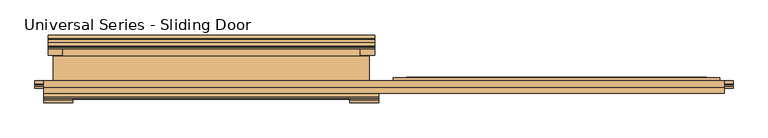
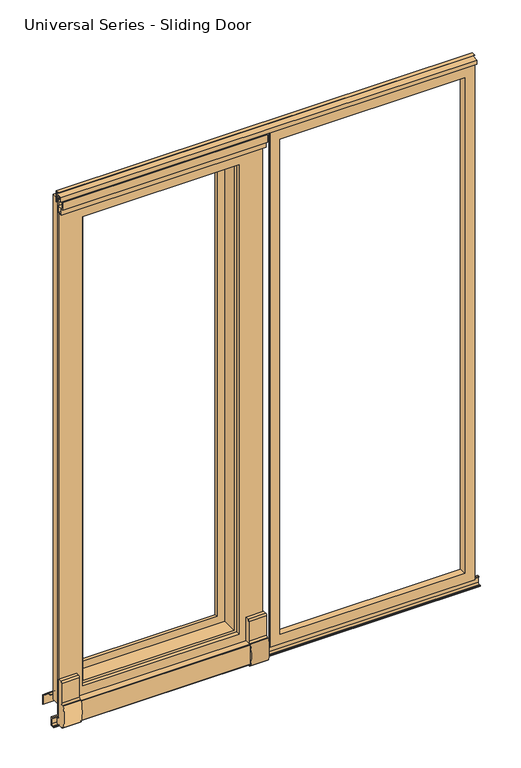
"""IFC4 building model written with IfcOpenShell, lengths in millimetres: door geometry, Universal Series - Sliding Door : Universal Sliding Door - Rainware White."""

from ifc_helpers import new_model, si_unit, point, frame, frame_2d, origin, place, context, project, spatial, polyline, circle_curve, ellipse_curve, trimmed, segment, composite_curve, outline, extrude, faceted_brep, source, transform, mapped, element, save
from ifc_brep_helpers import plane_surface, cylinder_surface, revolved_surface, extruded_surface, spline_curve, advanced_brep


def universal_series_sliding_door_3838186a(model_context):
    return source(origin(), model_context, "Body", "SolidModel", [
        faceted_brep([(742.95, -54.76875, 1983.85408), (742.95, -56.35625, 1983.85408), (742.95, -56.35625, 42.8625), (742.95, -54.76875, 42.8625), (11.1125, -56.35625, 1983.85408), (11.1125, -56.35625, 42.8625), (706.4375, -56.35625, 1947.34158), (706.4375, -56.35625, 79.375), (47.625, -56.35625, 79.375), (47.625, -56.35625, 1947.34158), (11.1125, -54.76875, 42.8625), (11.1125, -54.76875, 1983.85408), (20.6375, -54.76875, 1974.32908), (20.6375, -54.76875, 52.3875), (733.425, -54.76875, 52.3875), (733.425, -54.76875, 1974.32908), (733.425, -35.71875, 1974.32908), (733.425, -35.71875, 52.3875), (20.6375, -35.71875, 52.3875), (704.85, -34.13125, 1945.75408), (704.85, -34.13125, 80.9625), (49.2125, -34.13125, 80.9625), (20.6375, -35.71875, 1974.32908), (49.2125, -34.13125, 1945.75408)], [[[0, 1, 2, 3]], [[4, 5, 2, 1], [6, 7, 8, 9]], [[3, 2, 5, 10]], [[0, 3, 10, 11], [12, 13, 14, 15]], [[16, 15, 14, 17]], [[17, 14, 13, 18]], [[19, 16, 17, 20]], [[20, 17, 18, 21]], [[6, 19, 20, 7]], [[7, 20, 21, 8]], [[10, 5, 4, 11]], [[18, 13, 12, 22]], [[21, 18, 22, 23]], [[8, 21, 23, 9]], [[11, 4, 1, 0]], [[22, 12, 15, 16]], [[23, 22, 16, 19]], [[9, 23, 19, 6]]]),
        faceted_brep([(-646.1125, 15.08125, 139.7), (-646.1125, -40.48125, 139.7), (-107.95, -40.48125, 139.7), (-107.95, 15.08125, 139.7), (-107.95, -40.48125, 1890.7125), (-107.95, 15.08125, 1890.7125), (-98.425, -40.48125, 1900.2375), (-655.6375, -40.48125, 1900.2375), (-655.6375, -40.48125, 130.175), (-98.425, -40.48125, 130.175), (-646.1125, -40.48125, 1890.7125), (-646.1125, 15.08125, 1890.7125), (-136.525, 15.08125, 168.275), (-617.5375, 15.08125, 168.275), (-617.5375, 15.08125, 1862.1375), (-136.525, 15.08125, 1862.1375), (-655.6375, -54.76875, 130.175), (-98.425, -54.76875, 130.175), (-98.425, -54.76875, 1900.2375), (-14.2875, -54.76875, 1984.375), (-739.775, -54.76875, 1984.375), (-739.775, -54.76875, 46.0375), (-14.2875, -54.76875, 46.0375), (-655.6375, -54.76875, 1900.2375), (-739.775, -43.65625, 46.0375), (-14.2875, -43.65625, 46.0375), (-14.2875, -43.65625, 1984.375), (-739.775, -43.65625, 1984.375), (-31.75, -43.65625, 1966.9125), (-722.3125, -43.65625, 1966.9125), (-722.3125, -43.65625, 63.5), (-31.75, -43.65625, 63.5), (-722.3125, 11.90625, 63.5), (-31.75, 11.90625, 63.5), (-31.75, 11.90625, 1966.9125), (-722.3125, 11.90625, 1966.9125), (-52.3875, 11.90625, 1946.275), (-701.675, 11.90625, 1946.275), (-701.675, 11.90625, 84.1375), (-52.3875, 11.90625, 84.1375), (-701.675, 26.19375, 84.1375), (-52.3875, 26.19375, 84.1375), (-52.3875, 26.19375, 1946.275), (-701.675, 26.19375, 1946.275), (-136.525, 26.19375, 1862.1375), (-617.5375, 26.19375, 1862.1375), (-617.5375, 26.19375, 168.275), (-136.525, 26.19375, 168.275)], [[[0, 1, 2, 3]], [[3, 2, 4, 5]], [[6, 7, 8, 9], [2, 1, 10, 4]], [[5, 11, 0, 3], [12, 13, 14, 15]], [[8, 16, 17, 9]], [[9, 17, 18, 6]], [[19, 20, 21, 22], [17, 16, 23, 18]], [[21, 24, 25, 22]], [[22, 25, 26, 19]], [[25, 24, 27, 26], [28, 29, 30, 31]], [[30, 32, 33, 31]], [[31, 33, 34, 28]], [[33, 32, 35, 34], [36, 37, 38, 39]], [[38, 40, 41, 39]], [[39, 41, 42, 36]], [[41, 40, 43, 42], [44, 45, 46, 47]], [[46, 13, 12, 47]], [[47, 12, 15, 44]], [[45, 14, 13, 46]], [[37, 43, 40, 38]], [[29, 35, 32, 30]], [[20, 27, 24, 21]], [[7, 23, 16, 8]], [[11, 10, 1, 0]], [[44, 15, 14, 45]], [[36, 42, 43, 37]], [[28, 34, 35, 29]], [[19, 26, 27, 20]], [[6, 18, 23, 7]], [[5, 4, 10, 11]]]),
        extrude(outline(composite_curve([segment(polyline([(-80.16875, 98.7718194), (-56.35625, 98.7718194), (-56.35625, 22.5718194), (-80.16875, 22.5718194)]), True, "CONTINUOUS"), segment(trimmed(circle_curve(frame_2d((-80.16875, 24.1593194)), 1.5875), [point((-80.16875, 22.5718194))], [point((-81.75625, 24.1593194))], False, "CARTESIAN"), True, "CONTINUOUS"), segment(polyline([(-81.75625, 24.1593194), (-81.75625, 97.1843194)]), True, "CONTINUOUS"), segment(trimmed(circle_curve(frame_2d((-80.16875, 97.1843194)), 1.5875), [point((-81.75625, 97.1843194))], [point((-80.16875, 98.7718194))], False, "CARTESIAN"), True, "CONTINUOUS")], self_intersect=False)), frame((-679.45, 0.0, 0.0), z_axis=(1.0, 0.0, 0.0), x_axis=(0.0, 1.0, 0.0)), (0.0, 0.0, 1.0), 604.8375),
        advanced_brep(
        [(-74.6125, -55.3776179, 14.7543609), (-74.6125, -57.94375, 13.5043867), (-74.6125, -61.79833, 15.6279546), (-74.6125, -79.26083, 15.6279546), (-74.6125, -79.26083, 20.3904546), (-74.6125, -83.8827591, 20.3904546), (-74.6125, -83.8827591, 101.3529546), (-74.6125, -80.84833, 101.3529546), (-74.6125, -74.49833, 107.7029546), (-74.6125, -74.49833, 180.7279546), (-74.6125, -68.14833, 187.0779546), (-74.6125, -56.35625, 187.0779546), (-74.6125, -56.35625, 44.9596611), (-74.6125, -54.2590889, 42.8625), (-74.6125, -51.5780761, 42.8625), (-74.6125, -50.00625, 41.2906739), (-74.6125, -50.00625, 39.3434016), (-74.6125, -48.7628484, 38.1), (-74.6125, -47.7238855, 38.1), (-74.6125, -46.83125, 37.2073645), (-74.6125, -46.83125, 19.5168609), (-74.6125, -51.59375, 14.7543609), (-11.1125, -55.3776179, 14.7543609), (-11.1125, -51.59375, 14.7543609), (-11.1125, -46.83125, 19.5168609), (-11.1125, -46.83125, 37.2073645), (-11.1125, -47.7238855, 38.1), (-11.1125, -48.7628484, 38.1), (-11.1125, -50.00625, 39.3434016), (-11.1125, -50.00625, 41.2906739), (-11.1125, -51.5780761, 42.8625), (-11.1125, -54.2590889, 42.8625), (-11.1125, -56.35625, 44.9596611), (-11.1125, -56.35625, 187.0779546), (-11.1125, -68.14833, 187.0779546), (-11.1125, -74.49833, 180.7279546), (-11.1125, -74.49833, 107.7029546), (-11.1125, -80.84833, 101.3529546), (-11.1125, -83.8827591, 101.3529546), (-11.1125, -83.8827591, 20.3904546), (-11.1125, -79.26083, 20.3904546), (-11.1125, -79.26083, 15.6279546), (-11.1125, -61.79833, 15.6279546), (-11.1125, -57.94375, 13.5043867)],
        [
            (0, 1, circle_curve(frame((-74.6125, -56.35625, 13.5043867), z_axis=(1.0, 0.0, 0.0), x_axis=(0.0, 0.0, 1.0)), 1.5875)),
            (1, 2, spline_curve(3, [(-74.6125, -57.94375, 13.5043867), (-74.6125, -59.097758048, 13.5043867), (-74.6125, -60.382618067, 14.212242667), (-74.6125, -61.79833, 15.6279546)], [4, 4], [0.0, 0.0077660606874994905])),
            (2, 3),
            (3, 4),
            (4, 5),
            (5, 6, ellipse_curve(frame((-74.6125, -83.8827591, 60.8717046), z_axis=(-1.0, 0.0, 0.0), x_axis=(0.0, 0.0, 1.0)), 40.48125, 6.35)),
            (6, 7),
            (7, 8, circle_curve(frame((-74.6125, -80.84833, 107.7029546), z_axis=(1.0, 0.0, 0.0), x_axis=(0.0, 0.0, 1.0)), 6.35)),
            (8, 9),
            (9, 10, circle_curve(frame((-74.6125, -68.14833, 180.7279546), z_axis=(-1.0, 0.0, 0.0), x_axis=(0.0, 0.0, 1.0)), 6.35)),
            (10, 11),
            (11, 12),
            (12, 13, circle_curve(frame((-74.6125, -54.2590889, 44.9596611), z_axis=(1.0, 0.0, 0.0), x_axis=(0.0, 0.0, 1.0)), 2.0971611)),
            (13, 14),
            (14, 15, circle_curve(frame((-74.6125, -51.5780761, 41.2906739), z_axis=(-1.0, 0.0, 0.0), x_axis=(0.0, 0.0, 1.0)), 1.5718261)),
            (15, 16),
            (16, 17, circle_curve(frame((-74.6125, -48.7628484, 39.3434016), z_axis=(1.0, 0.0, 0.0), x_axis=(0.0, 0.0, 1.0)), 1.2434016)),
            (17, 18),
            (18, 19, circle_curve(frame((-74.6125, -47.7238855, 37.2073645), z_axis=(-1.0, 0.0, 0.0), x_axis=(0.0, 0.0, 1.0)), 0.8926355)),
            (19, 20),
            (20, 21, circle_curve(frame((-74.6125, -51.59375, 19.5168609), z_axis=(-1.0, 0.0, 0.0), x_axis=(0.0, 0.0, 1.0)), 4.7625)),
            (21, 0),
            (22, 23),
            (23, 24, circle_curve(frame((-11.1125, -51.59375, 19.5168609), z_axis=(1.0, 0.0, 0.0), x_axis=(0.0, 0.0, 1.0)), 4.7625)),
            (24, 25),
            (25, 26, circle_curve(frame((-11.1125, -47.7238855, 37.2073645), z_axis=(1.0, 0.0, 0.0), x_axis=(0.0, 0.0, 1.0)), 0.8926355)),
            (26, 27),
            (27, 28, circle_curve(frame((-11.1125, -48.7628484, 39.3434016), z_axis=(-1.0, 0.0, 0.0), x_axis=(0.0, 0.0, 1.0)), 1.2434016)),
            (28, 29),
            (29, 30, circle_curve(frame((-11.1125, -51.5780761, 41.2906739), z_axis=(1.0, 0.0, 0.0), x_axis=(0.0, 0.0, 1.0)), 1.5718261)),
            (30, 31),
            (31, 32, circle_curve(frame((-11.1125, -54.2590889, 44.9596611), z_axis=(-1.0, 0.0, 0.0), x_axis=(0.0, 0.0, 1.0)), 2.0971611)),
            (32, 33),
            (33, 34),
            (34, 35, circle_curve(frame((-11.1125, -68.14833, 180.7279546), z_axis=(1.0, 0.0, 0.0), x_axis=(0.0, 0.0, 1.0)), 6.35)),
            (35, 36),
            (36, 37, circle_curve(frame((-11.1125, -80.84833, 107.7029546), z_axis=(-1.0, 0.0, 0.0), x_axis=(0.0, 0.0, 1.0)), 6.35)),
            (37, 38),
            (38, 39, ellipse_curve(frame((-11.1125, -83.8827591, 60.8717046), z_axis=(1.0, 0.0, 0.0), x_axis=(0.0, 0.0, 1.0)), 40.48125, 6.35)),
            (39, 40),
            (40, 41),
            (41, 42),
            (42, 43, spline_curve(3, [(-11.1125, -61.79833, 15.6279546), (-11.1125, -60.382618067, 14.212242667), (-11.1125, -59.097758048, 13.5043867), (-11.1125, -57.94375, 13.5043867)], [4, 4], [0.0, 0.0077660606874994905])),
            (43, 22, circle_curve(frame((-11.1125, -56.35625, 13.5043867), z_axis=(-1.0, 0.0, 0.0), x_axis=(0.0, 0.0, 1.0)), 1.5875)),
            (0, 22),
            (43, 1),
            (42, 2),
            (41, 3),
            (40, 4),
            (39, 5),
            (38, 6),
            (37, 7),
            (36, 8),
            (35, 9),
            (34, 10),
            (33, 11),
            (32, 12),
            (31, 13),
            (30, 14),
            (29, 15),
            (28, 16),
            (27, 17),
            (26, 18),
            (25, 19),
            (24, 20),
            (23, 21),
        ],
        [
            plane_surface(frame((-74.6125, 56.35625, 130.175), z_axis=(-1.0, 0.0, 0.0), x_axis=(0.0, -1.0, 0.0))),
            plane_surface(frame((-11.1125, 56.35625, 130.175), z_axis=(1.0, 0.0, 0.0), x_axis=(0.0, -1.0, 0.0))),
            revolved_surface(polyline([(-11.112499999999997, -56.35625, 15.0918867), (-74.6125, -56.35625, 15.0918867)]), (-74.6125, -56.35625, 13.5043867), (1.0, 0.0, 0.0)),
            extruded_surface(spline_curve(3, [(-11.1125, -57.94375, 13.5043867), (-11.1125, -59.097758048, 13.5043867), (-11.1125, -60.382618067, 14.212242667), (-11.1125, -61.79833, 15.6279546)], [4, 4], [0.0, 0.0077660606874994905]), (-63.5, 0.0, 0.0), 63.5),
            plane_surface(frame((-74.6125, -61.79833, 15.6279546), z_axis=(0.0, 0.0, -1.0), x_axis=(1.0, 0.0, 0.0))),
            plane_surface(frame((-74.6125, -79.26083, 15.6279546), z_axis=(0.0, -1.0, 0.0), x_axis=(1.0, 0.0, 0.0))),
            plane_surface(frame((-74.6125, -79.26083, 20.3904546), z_axis=(0.0, 0.0, -1.0), x_axis=(1.0, 0.0, 0.0))),
            extruded_surface(trimmed(ellipse_curve(frame((-11.1125, -83.8827591, 60.8717046), z_axis=(-1.0, 0.0, 0.0), x_axis=(0.0, 0.0, 1.0)), 40.48125, 6.35), [point((-11.1125, -83.8827591, 20.3904546))], [point((-11.1125, -83.8827591, 101.3529546))], True, "CARTESIAN"), (-63.5, 0.0, 0.0), 63.5),
            plane_surface(frame((-74.6125, -83.8827591, 101.3529546), z_axis=(0.0, 0.0, 1.0), x_axis=(1.0, 0.0, 0.0))),
            revolved_surface(polyline([(-11.112499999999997, -80.84833, 114.05295459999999), (-74.6125, -80.84833, 114.05295459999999)]), (-74.6125, -80.84833, 107.7029546), (1.0, 0.0, 0.0)),
            plane_surface(frame((-74.6125, -74.49833, 107.7029546), z_axis=(0.0, -1.0, 0.0), x_axis=(1.0, 0.0, 0.0))),
            cylinder_surface(frame((-74.6125, -68.14833, 180.7279546), z_axis=(-1.0, 0.0, 0.0), x_axis=(0.0, 0.0, 1.0)), 6.35),
            plane_surface(frame((-74.6125, -68.14833, 187.0779546), z_axis=(0.0, 0.0, 1.0), x_axis=(1.0, 0.0, 0.0))),
            plane_surface(frame((-74.6125, -56.35625, 187.0779546), z_axis=(0.0, 1.0, 0.0), x_axis=(1.0, 0.0, 0.0))),
            revolved_surface(polyline([(-11.112499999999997, -54.2590889, 47.0568222), (-74.6125, -54.2590889, 47.0568222)]), (-74.6125, -54.2590889, 44.9596611), (1.0, 0.0, 0.0)),
            plane_surface(frame((-74.6125, -54.2590889, 42.8625), z_axis=(0.0, 0.0, 1.0), x_axis=(1.0, 0.0, 0.0))),
            cylinder_surface(frame((-74.6125, -51.5780761, 41.2906739), z_axis=(-1.0, 0.0, 0.0), x_axis=(0.0, 0.0, 1.0)), 1.5718261),
            plane_surface(frame((-74.6125, -50.00625, 41.2906739), z_axis=(0.0, 1.0, 0.0), x_axis=(1.0, 0.0, 0.0))),
            revolved_surface(polyline([(-11.112499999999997, -48.7628484, 40.5868032), (-74.6125, -48.7628484, 40.5868032)]), (-74.6125, -48.7628484, 39.3434016), (1.0, 0.0, 0.0)),
            plane_surface(frame((-74.6125, -48.7628484, 38.1), z_axis=(0.0, 0.0, 1.0), x_axis=(1.0, 0.0, 0.0))),
            cylinder_surface(frame((-74.6125, -47.7238855, 37.2073645), z_axis=(-1.0, 0.0, 0.0), x_axis=(0.0, 0.0, 1.0)), 0.8926355),
            plane_surface(frame((-74.6125, -46.83125, 37.2073645), z_axis=(0.0, 1.0, 0.0), x_axis=(1.0, 0.0, 0.0))),
            cylinder_surface(frame((-74.6125, -51.59375, 19.5168609), z_axis=(-1.0, 0.0, 0.0), x_axis=(0.0, 0.0, 1.0)), 4.7625),
            plane_surface(frame((-74.6125, -51.59375, 14.7543609), z_axis=(0.0, 0.0, -1.0), x_axis=(1.0, 0.0, 0.0))),
        ],
        [
            (0, [[1, 2, 3, 4, 5, 6, 7, 8, 9, 10, 11, 12, 13, 14, 15, 16, 17, 18, 19, 20, 21, 22]]),
            (1, [[23, 24, 25, 26, 27, 28, 29, 30, 31, 32, 33, 34, 35, 36, 37, 38, 39, 40, 41, 42, 43, 44]]),
            (2, [[-1, 45, -44, 46]]),
            (3, [[-2, -46, -43, 47]]),
            (4, [[-3, -47, -42, 48]]),
            (5, [[-4, -48, -41, 49]]),
            (6, [[-5, -49, -40, 50]]),
            (7, [[-6, -50, -39, 51]]),
            (8, [[-7, -51, -38, 52]]),
            (9, [[-8, -52, -37, 53]]),
            (10, [[-9, -53, -36, 54]]),
            (11, [[-10, -54, -35, 55]]),
            (12, [[-11, -55, -34, 56]]),
            (13, [[-12, -56, -33, 57]]),
            (14, [[-13, -57, -32, 58]]),
            (15, [[-14, -58, -31, 59]]),
            (16, [[-15, -59, -30, 60]]),
            (17, [[-16, -60, -29, 61]]),
            (18, [[-17, -61, -28, 62]]),
            (19, [[-18, -62, -27, 63]]),
            (20, [[-19, -63, -26, 64]]),
            (21, [[-20, -64, -25, 65]]),
            (22, [[-21, -65, -24, 66]]),
            (23, [[-22, -66, -23, -45]]),
        ],
    ),
        extrude(outline(polyline([(-80.16875, 1971.0796861), (-80.16875, 1998.0671861), (-78.58125, 1998.0671861), (-78.58125, 1972.6671861), (-54.76875, 1972.6671861), (-54.76875, 1947.2671861), (-72.23125, 1947.2671861), (-72.23125, 1971.0796861), (-80.16875, 1971.0796861)]), holes=[polyline([(-56.5431521, 1971.0796861), (-70.642469, 1971.0796861), (-70.642469, 1948.8962772), (-56.5431521, 1948.8962772), (-56.5431521, 1971.0796861)])]), frame((-742.95, 0.0, 0.0), z_axis=(1.0, 0.0, 0.0), x_axis=(0.0, 1.0, 0.0)), (0.0, 0.0, 1.0), 731.8375),
        extrude(outline(polyline([(-69.85, 2010.2217299), (-43.65625, 2010.2217299), (-43.65625, 1993.5529799), (-49.2125, 1993.5529799), (-49.2125, 1995.1404799), (-46.83125, 1995.1404799), (-46.83125, 2008.6342299), (-68.2625, 2008.6342299), (-68.2625, 1995.1404799), (-64.29375, 1995.1404799), (-64.29375, 1993.5529799), (-69.85, 1993.5529799), (-69.85, 2010.2217299)])), frame((-742.95, 0.0, 0.0), z_axis=(1.0, 0.0, 0.0), x_axis=(0.0, 1.0, 0.0)), (0.0, 0.0, 1.0), 1485.9),
        extrude(outline(polyline([(-56.35625, 2019.9865355), (-56.35625, 2020.8875), (-42.06875, 2020.8875), (-42.06875, 1979.6125), (-43.65625, 1979.6125), (-43.65625, 2018.8754295), (-56.35625, 2019.9865355)])), frame((-742.95, 0.0, 0.0), z_axis=(1.0, 0.0, 0.0), x_axis=(0.0, 1.0, 0.0)), (0.0, 0.0, 1.0), 1485.9),
        advanced_brep(
        [(-679.45, -55.3776179, 14.7543609), (-679.45, -51.59375, 14.7543609), (-679.45, -46.83125, 19.5168609), (-679.45, -46.83125, 37.2073645), (-679.45, -47.7238855, 38.1), (-679.45, -48.7628484, 38.1), (-679.45, -50.00625, 39.3434016), (-679.45, -50.00625, 41.2906739), (-679.45, -51.5780761, 42.8625), (-679.45, -54.2590889, 42.8625), (-679.45, -56.35625, 44.9596611), (-679.45, -56.35625, 187.0779546), (-679.45, -68.14833, 187.0779546), (-679.45, -74.49833, 180.7279546), (-679.45, -74.49833, 107.7029546), (-679.45, -80.84833, 101.3529546), (-679.45, -83.8827591, 101.3529546), (-679.45, -83.8827591, 20.3904546), (-679.45, -79.26083, 20.3904546), (-679.45, -79.26083, 15.6279546), (-679.45, -61.79833, 15.6279546), (-679.45, -57.94375, 13.5043867), (-742.95, -55.3776179, 14.7543609), (-742.95, -57.94375, 13.5043867), (-742.95, -61.79833, 15.6279546), (-742.95, -79.26083, 15.6279546), (-742.95, -79.26083, 20.3904546), (-742.95, -83.8827591, 20.3904546), (-742.95, -83.8827591, 101.3529546), (-742.95, -80.84833, 101.3529546), (-742.95, -74.49833, 107.7029546), (-742.95, -74.49833, 180.7279546), (-742.95, -68.14833, 187.0779546), (-742.95, -56.35625, 187.0779546), (-742.95, -56.35625, 44.9596611), (-742.95, -54.2590889, 42.8625), (-742.95, -51.5780761, 42.8625), (-742.95, -50.00625, 41.2906739), (-742.95, -50.00625, 39.3434016), (-742.95, -48.7628484, 38.1), (-742.95, -47.7238855, 38.1), (-742.95, -46.83125, 37.2073645), (-742.95, -46.83125, 19.5168609), (-742.95, -51.59375, 14.7543609)],
        [
            (0, 1),
            (1, 2, circle_curve(frame((-679.45, -51.59375, 19.5168609), z_axis=(1.0, 0.0, 0.0), x_axis=(0.0, 0.0, -1.0)), 4.7625)),
            (2, 3),
            (3, 4, circle_curve(frame((-679.45, -47.7238855, 37.2073645), z_axis=(1.0, 0.0, 0.0), x_axis=(0.0, 0.0, -1.0)), 0.8926355)),
            (4, 5),
            (5, 6, circle_curve(frame((-679.45, -48.7628484, 39.3434016), z_axis=(-1.0, 0.0, 0.0), x_axis=(0.0, 0.0, -1.0)), 1.2434016)),
            (6, 7),
            (7, 8, circle_curve(frame((-679.45, -51.5780761, 41.2906739), z_axis=(1.0, 0.0, 0.0), x_axis=(0.0, 0.0, -1.0)), 1.5718261)),
            (8, 9),
            (9, 10, circle_curve(frame((-679.45, -54.2590889, 44.9596611), z_axis=(-1.0, 0.0, 0.0), x_axis=(0.0, 0.0, -1.0)), 2.0971611)),
            (10, 11),
            (11, 12),
            (12, 13, circle_curve(frame((-679.45, -68.14833, 180.7279546), z_axis=(1.0, 0.0, 0.0), x_axis=(0.0, 0.0, -1.0)), 6.35)),
            (13, 14),
            (14, 15, circle_curve(frame((-679.45, -80.84833, 107.7029546), z_axis=(-1.0, 0.0, 0.0), x_axis=(0.0, 0.0, -1.0)), 6.35)),
            (15, 16),
            (16, 17, ellipse_curve(frame((-679.45, -83.8827591, 60.8717046), z_axis=(1.0, 0.0, 0.0), x_axis=(0.0, 0.0, 1.0)), 40.48125, 6.35)),
            (17, 18),
            (18, 19),
            (19, 20),
            (20, 21, spline_curve(3, [(-679.45, -61.79833, 15.6279546), (-679.45, -60.382618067, 14.212242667), (-679.45, -59.097758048, 13.5043867), (-679.45, -57.94375, 13.5043867)], [4, 4], [0.0, 0.0077660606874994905])),
            (21, 0, circle_curve(frame((-679.45, -56.35625, 13.5043867), z_axis=(-1.0, 0.0, 0.0), x_axis=(0.0, 0.0, -1.0)), 1.5875)),
            (22, 23, circle_curve(frame((-742.95, -56.35625, 13.5043867), z_axis=(1.0, 0.0, 0.0), x_axis=(0.0, 0.0, -1.0)), 1.5875)),
            (23, 24, spline_curve(3, [(-742.95, -57.94375, 13.5043867), (-742.95, -59.097758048, 13.5043867), (-742.95, -60.382618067, 14.212242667), (-742.95, -61.79833, 15.6279546)], [4, 4], [0.0, 0.0077660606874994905])),
            (24, 25),
            (25, 26),
            (26, 27),
            (27, 28, ellipse_curve(frame((-742.95, -83.8827591, 60.8717046), z_axis=(-1.0, 0.0, 0.0), x_axis=(0.0, 0.0, 1.0)), 40.48125, 6.35)),
            (28, 29),
            (29, 30, circle_curve(frame((-742.95, -80.84833, 107.7029546), z_axis=(1.0, 0.0, 0.0), x_axis=(0.0, 0.0, -1.0)), 6.35)),
            (30, 31),
            (31, 32, circle_curve(frame((-742.95, -68.14833, 180.7279546), z_axis=(-1.0, 0.0, 0.0), x_axis=(0.0, 0.0, -1.0)), 6.35)),
            (32, 33),
            (33, 34),
            (34, 35, circle_curve(frame((-742.95, -54.2590889, 44.9596611), z_axis=(1.0, 0.0, 0.0), x_axis=(0.0, 0.0, -1.0)), 2.0971611)),
            (35, 36),
            (36, 37, circle_curve(frame((-742.95, -51.5780761, 41.2906739), z_axis=(-1.0, 0.0, 0.0), x_axis=(0.0, 0.0, -1.0)), 1.5718261)),
            (37, 38),
            (38, 39, circle_curve(frame((-742.95, -48.7628484, 39.3434016), z_axis=(1.0, 0.0, 0.0), x_axis=(0.0, 0.0, -1.0)), 1.2434016)),
            (39, 40),
            (40, 41, circle_curve(frame((-742.95, -47.7238855, 37.2073645), z_axis=(-1.0, 0.0, 0.0), x_axis=(0.0, 0.0, -1.0)), 0.8926355)),
            (41, 42),
            (42, 43, circle_curve(frame((-742.95, -51.59375, 19.5168609), z_axis=(-1.0, 0.0, 0.0), x_axis=(0.0, 0.0, -1.0)), 4.7625)),
            (43, 22),
            (21, 23),
            (22, 0),
            (20, 24),
            (19, 25),
            (18, 26),
            (17, 27),
            (16, 28),
            (15, 29),
            (14, 30),
            (13, 31),
            (12, 32),
            (11, 33),
            (10, 34),
            (9, 35),
            (8, 36),
            (7, 37),
            (6, 38),
            (5, 39),
            (4, 40),
            (3, 41),
            (2, 42),
            (1, 43),
        ],
        [
            plane_surface(frame((-679.45, 56.35625, 130.175), z_axis=(1.0, 0.0, 0.0), x_axis=(0.0, -1.0, 0.0))),
            plane_surface(frame((-742.95, 56.35625, 130.175), z_axis=(-1.0, 0.0, 0.0), x_axis=(0.0, -1.0, 0.0))),
            revolved_surface(polyline([(-742.95, -56.35625, 11.9168867), (-679.45, -56.35625, 11.9168867)]), (-679.45, -56.35625, 13.5043867), (-1.0, 0.0, 0.0)),
            extruded_surface(spline_curve(3, [(-742.95, -61.79833, 15.6279546), (-742.95, -60.382618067, 14.212242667), (-742.95, -59.097758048, 13.5043867), (-742.95, -57.94375, 13.5043867)], [4, 4], [0.0, 0.0077660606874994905]), (63.5, 0.0, 0.0), 63.5),
            plane_surface(frame((-679.45, -79.26083, 15.6279546), z_axis=(0.0, 0.0, -1.0), x_axis=(-1.0, 0.0, 0.0))),
            plane_surface(frame((-679.45, -79.26083, 20.3904546), z_axis=(0.0, -1.0, 0.0), x_axis=(-1.0, 0.0, 0.0))),
            plane_surface(frame((-679.45, -83.8827591, 20.3904546), z_axis=(0.0, 0.0, -1.0), x_axis=(-1.0, 0.0, 0.0))),
            extruded_surface(trimmed(ellipse_curve(frame((-742.95, -83.8827591, 60.8717046), z_axis=(1.0, 0.0, 0.0), x_axis=(0.0, 0.0, 1.0)), 40.48125, 6.35), [point((-742.95, -83.8827591, 101.3529546))], [point((-742.95, -83.8827591, 20.3904546))], True, "CARTESIAN"), (63.5, 0.0, 0.0), 63.5),
            plane_surface(frame((-679.45, -80.84833, 101.3529546), z_axis=(0.0, 0.0, 1.0), x_axis=(-1.0, 0.0, 0.0))),
            revolved_surface(polyline([(-742.95, -80.84833, 101.3529546), (-679.45, -80.84833, 101.3529546)]), (-679.45, -80.84833, 107.7029546), (-1.0, 0.0, 0.0)),
            plane_surface(frame((-679.45, -74.49833, 180.7279546), z_axis=(0.0, -1.0, 0.0), x_axis=(-1.0, 0.0, 0.0))),
            cylinder_surface(frame((-679.45, -68.14833, 180.7279546), z_axis=(1.0, 0.0, 0.0), x_axis=(0.0, 0.0, -1.0)), 6.35),
            plane_surface(frame((-679.45, -56.35625, 187.0779546), z_axis=(0.0, 0.0, 1.0), x_axis=(-1.0, 0.0, 0.0))),
            plane_surface(frame((-679.45, -56.35625, 44.9596611), z_axis=(0.0, 1.0, 0.0), x_axis=(-1.0, 0.0, 0.0))),
            revolved_surface(polyline([(-742.95, -54.2590889, 42.8625), (-679.45, -54.2590889, 42.8625)]), (-679.45, -54.2590889, 44.9596611), (-1.0, 0.0, 0.0)),
            plane_surface(frame((-679.45, -51.5780761, 42.8625), z_axis=(0.0, 0.0, 1.0), x_axis=(-1.0, 0.0, 0.0))),
            cylinder_surface(frame((-679.45, -51.5780761, 41.2906739), z_axis=(1.0, 0.0, 0.0), x_axis=(0.0, 0.0, -1.0)), 1.5718261),
            plane_surface(frame((-679.45, -50.00625, 39.3434016), z_axis=(0.0, 1.0, 0.0), x_axis=(-1.0, 0.0, 0.0))),
            revolved_surface(polyline([(-742.95, -48.7628484, 38.1), (-679.45, -48.7628484, 38.1)]), (-679.45, -48.7628484, 39.3434016), (-1.0, 0.0, 0.0)),
            plane_surface(frame((-679.45, -47.7238855, 38.1), z_axis=(0.0, 0.0, 1.0), x_axis=(-1.0, 0.0, 0.0))),
            cylinder_surface(frame((-679.45, -47.7238855, 37.2073645), z_axis=(1.0, 0.0, 0.0), x_axis=(0.0, 0.0, -1.0)), 0.8926355),
            plane_surface(frame((-679.45, -46.83125, 19.5168609), z_axis=(0.0, 1.0, 0.0), x_axis=(-1.0, 0.0, 0.0))),
            cylinder_surface(frame((-679.45, -51.59375, 19.5168609), z_axis=(1.0, 0.0, 0.0), x_axis=(0.0, 0.0, -1.0)), 4.7625),
            plane_surface(frame((-679.45, -55.3776179, 14.7543609), z_axis=(0.0, 0.0, -1.0), x_axis=(-1.0, 0.0, 0.0))),
        ],
        [
            (0, [[1, 2, 3, 4, 5, 6, 7, 8, 9, 10, 11, 12, 13, 14, 15, 16, 17, 18, 19, 20, 21, 22]]),
            (1, [[23, 24, 25, 26, 27, 28, 29, 30, 31, 32, 33, 34, 35, 36, 37, 38, 39, 40, 41, 42, 43, 44]]),
            (2, [[-22, 45, -23, 46]]),
            (3, [[-21, 47, -24, -45]]),
            (4, [[-20, 48, -25, -47]]),
            (5, [[-19, 49, -26, -48]]),
            (6, [[-18, 50, -27, -49]]),
            (7, [[-17, 51, -28, -50]]),
            (8, [[-16, 52, -29, -51]]),
            (9, [[-15, 53, -30, -52]]),
            (10, [[-14, 54, -31, -53]]),
            (11, [[-13, 55, -32, -54]]),
            (12, [[-12, 56, -33, -55]]),
            (13, [[-11, 57, -34, -56]]),
            (14, [[-10, 58, -35, -57]]),
            (15, [[-9, 59, -36, -58]]),
            (16, [[-8, 60, -37, -59]]),
            (17, [[-7, 61, -38, -60]]),
            (18, [[-6, 62, -39, -61]]),
            (19, [[-5, 63, -40, -62]]),
            (20, [[-4, 64, -41, -63]]),
            (21, [[-3, 65, -42, -64]]),
            (22, [[-2, 66, -43, -65]]),
            (23, [[-1, -46, -44, -66]]),
        ],
    ),
        extrude(outline(composite_curve([segment(polyline([(-42.06875, 42.8625), (-42.06875, 11.1125), (-57.94375, 11.1125), (-57.94375, 13.5043867)]), True, "CONTINUOUS"), segment(trimmed(circle_curve(frame_2d((-56.35625, 13.5043867)), 1.5875), [point((-57.94375, 13.5043867))], [point((-55.1449289, 14.5304751))], False, "CARTESIAN"), True, "CONTINUOUS"), segment(polyline([(-55.1449289, 14.5304751), (-55.6412439, 13.1668609), (-51.59375, 13.1668609)]), True, "CONTINUOUS"), segment(trimmed(circle_curve(frame_2d((-51.59375, 19.5168609)), 6.35), [point((-51.59375, 13.1668609))], [point((-45.24375, 19.5168609))], True, "CARTESIAN"), True, "CONTINUOUS"), segment(polyline([(-45.24375, 19.5168609), (-45.24375, 39.6875), (-48.41875, 39.6875), (-48.41875, 42.8625), (-42.06875, 42.8625)]), True, "CONTINUOUS")], self_intersect=False)), frame((-762.0, 0.0, 0.0), z_axis=(1.0, 0.0, 0.0), x_axis=(0.0, 1.0, 0.0)), (0.0, 0.0, 1.0), 1524.0),
        extrude(outline(composite_curve([segment(polyline([(13.49375, 80.9625), (13.49375, 82.55), (26.7731364, 82.55), (32.7347362, 77.5297054)]), True, "CONTINUOUS"), segment(trimmed(circle_curve(frame_2d((33.5111453, 76.7716135)), 1.0851333), [point((32.7347362, 77.5297054))], [point((34.3903071, 76.1355405))], True, "CARTESIAN"), True, "CONTINUOUS"), segment(polyline([(34.3903071, 76.1355405), (41.1332144, 70.4573027)]), True, "CONTINUOUS"), segment(trimmed(circle_curve(frame_2d((41.9096235, 69.6992108)), 1.0851333), [point((41.1332144, 70.4573027))], [point((42.7887853, 69.0631378))], True, "CARTESIAN"), True, "CONTINUOUS"), segment(polyline([(42.7887853, 69.0631378), (49.5689852, 63.3534957)]), True, "CONTINUOUS"), segment(trimmed(circle_curve(frame_2d((50.3990159, 62.6545225)), 1.0851333), [point((49.5689852, 63.3534957))], [point((51.2290465, 61.9555494))], True, "CARTESIAN"), True, "CONTINUOUS"), segment(polyline([(51.2290465, 61.9555494), (57.94375, 56.3010622), (57.94375, 20.6375), (56.35625, 20.6375), (56.35625, 55.5625), (51.0210651, 60.0552873)]), True, "CONTINUOUS"), segment(trimmed(circle_curve(frame_2d((50.3990159, 62.6545225)), 2.6726333), [point((51.0210651, 60.0552873))], [point((47.7318357, 62.8251647))], False, "CARTESIAN"), True, "CONTINUOUS"), segment(polyline([(47.7318357, 62.8251647), (42.6263924, 67.1244853)]), True, "CONTINUOUS"), segment(trimmed(circle_curve(frame_2d((41.9096235, 69.6992108)), 2.6726333), [point((42.6263924, 67.1244853))], [point((39.2504763, 69.9673621))], False, "CARTESIAN"), True, "CONTINUOUS"), segment(polyline([(39.2504763, 69.9673621), (34.2279142, 74.196888)]), True, "CONTINUOUS"), segment(trimmed(circle_curve(frame_2d((33.5111453, 76.7716135)), 2.6726333), [point((34.2279142, 74.196888))], [point((30.8519981, 77.0397648))], False, "CARTESIAN"), True, "CONTINUOUS"), segment(polyline([(30.8519981, 77.0397648), (26.19375, 80.9625), (13.49375, 80.9625)]), True, "CONTINUOUS")], self_intersect=False)), frame((-733.425, 0.0, 0.0), z_axis=(1.0, 0.0, 0.0), x_axis=(0.0, 1.0, 0.0)), (0.0, 0.0, 1.0), 712.7875),
    ])


if __name__ == "__main__":
    model = new_model("IFC4")
    model_context = context("Model", 3, world=origin())
    ifc_project = project(units=[si_unit("LENGTHUNIT", "METRE", prefix="MILLI")], contexts=[model_context])
    site = spatial("IfcSite", under=ifc_project)
    building = spatial("IfcBuilding", under=site)
    placement = place(None, origin())
    universal_series_sliding_door_shape = universal_series_sliding_door_3838186a(model_context)
    element("IfcDoor", 1, ObjectType="Universal Series - Sliding Door : Universal Sliding Door - Rainware White", at=placement, inside=building, context=model_context, shape_type="MappedRepresentation", body=[
        mapped(universal_series_sliding_door_shape, transform((0.0, 0.0, 0.0), x_axis=(1.0, 0.0, 0.0), y_axis=(0.0, 1.0, 0.0), z_axis=(0.0, 0.0, 1.0))),
    ])
    save(model, "model.ifc")
